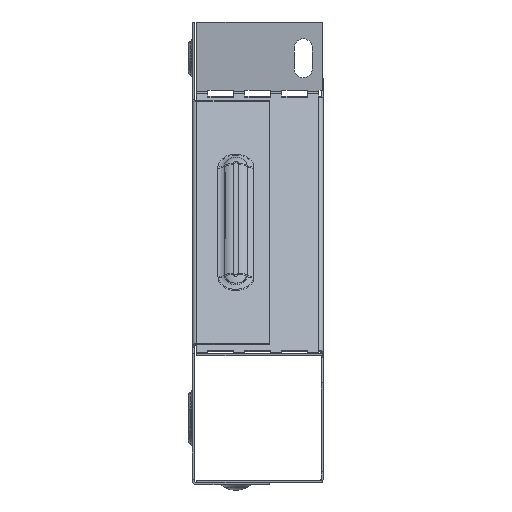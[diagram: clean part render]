
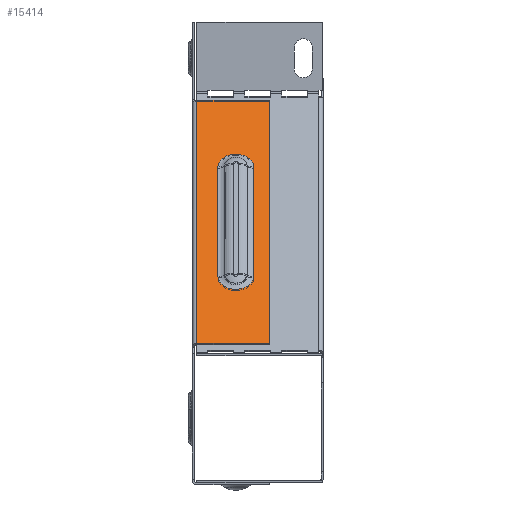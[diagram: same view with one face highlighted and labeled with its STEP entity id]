
A CAD part, left-side view. The second image highlights one B-rep face of the part: STEP entity #15414.
In plain terms, the highlighted planar face has unit normal (-0.707, 0, 0.707).
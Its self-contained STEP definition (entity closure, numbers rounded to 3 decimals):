
#189 = DIRECTION ( 'NONE',  ( 0.707, 0., -0.707 ) ) ;
#611 = ORIENTED_EDGE ( 'NONE', *, *, #15184, .T. ) ;
#863 = DIRECTION ( 'NONE',  ( 0.707, 0., -0.707 ) ) ;
#1020 = CARTESIAN_POINT ( 'NONE',  ( -88.438, 20.8, 88.438 ) ) ;
#1037 = FACE_OUTER_BOUND ( 'NONE', #1502, .T. ) ;
#1202 = VECTOR ( 'NONE', #14240, 1000. ) ;
#1244 = CIRCLE ( 'NONE', #18974, 6.917 ) ;
#1502 = EDGE_LOOP ( 'NONE', ( #6201, #19132, #17939, #13092 ) ) ;
#1658 = DIRECTION ( 'NONE',  ( -0.5, 0.707, -0.5 ) ) ;
#2131 = CARTESIAN_POINT ( 'NONE',  ( -97.152, 26.983, 79.725 ) ) ;
#2783 = CARTESIAN_POINT ( 'NONE',  ( -26.838, 49., 150.038 ) ) ;
#2987 = CARTESIAN_POINT ( 'NONE',  ( -54.725, 26.983, 122.152 ) ) ;
#3697 = DIRECTION ( 'NONE',  ( -0.707, 0., -0.707 ) ) ;
#4425 = DIRECTION ( 'NONE',  ( 0.707, 0., -0.707 ) ) ;
#4472 = VERTEX_POINT ( 'NONE', #12782 ) ;
#4889 = AXIS2_PLACEMENT_3D ( 'NONE', #16972, #863, #3697 ) ;
#5003 = EDGE_CURVE ( 'NONE', #8929, #8615, #18698, .T. ) ;
#5509 = VERTEX_POINT ( 'NONE', #7418 ) ;
#5795 = VECTOR ( 'NONE', #11313, 1000. ) ;
#6201 = ORIENTED_EDGE ( 'NONE', *, *, #6960, .F. ) ;
#6314 = CARTESIAN_POINT ( 'NONE',  ( -54.725, 26.983, 122.152 ) ) ;
#6418 = VERTEX_POINT ( 'NONE', #9533 ) ;
#6908 = DIRECTION ( 'NONE',  ( 0.707, 0., 0.707 ) ) ;
#6960 = EDGE_CURVE ( 'NONE', #6418, #4472, #10183, .T. ) ;
#7173 = EDGE_CURVE ( 'NONE', #12376, #14232, #12942, .T. ) ;
#7263 = VECTOR ( 'NONE', #6908, 1000. ) ;
#7268 = CARTESIAN_POINT ( 'NONE',  ( -54.725, 40.817, 122.152 ) ) ;
#7390 = CARTESIAN_POINT ( 'NONE',  ( -28.96, 20.8, 147.917 ) ) ;
#7407 = CARTESIAN_POINT ( 'NONE',  ( -54.725, 33.9, 122.152 ) ) ;
#7418 = CARTESIAN_POINT ( 'NONE',  ( -97.152, 40.817, 79.725 ) ) ;
#7466 = ORIENTED_EDGE ( 'NONE', *, *, #7797, .T. ) ;
#7749 = CARTESIAN_POINT ( 'NONE',  ( -28.96, 50.8, 147.917 ) ) ;
#7797 = EDGE_CURVE ( 'NONE', #14232, #5509, #1244, .T. ) ;
#8551 = VECTOR ( 'NONE', #11701, 1000. ) ;
#8615 = VERTEX_POINT ( 'NONE', #7390 ) ;
#8813 = EDGE_LOOP ( 'NONE', ( #16424, #611, #16878, #7466 ) ) ;
#8929 = VERTEX_POINT ( 'NONE', #11506 ) ;
#9025 = CARTESIAN_POINT ( 'NONE',  ( -97.152, 33.9, 79.725 ) ) ;
#9533 = CARTESIAN_POINT ( 'NONE',  ( -122.917, 20.8, 53.96 ) ) ;
#10183 = LINE ( 'NONE', #15856, #5795 ) ;
#11152 = CARTESIAN_POINT ( 'NONE',  ( -54.725, 40.817, 122.152 ) ) ;
#11313 = DIRECTION ( 'NONE',  ( 0., 1., 0. ) ) ;
#11392 = LINE ( 'NONE', #1020, #7263 ) ;
#11506 = CARTESIAN_POINT ( 'NONE',  ( -28.96, 49., 147.917 ) ) ;
#11701 = DIRECTION ( 'NONE',  ( -0.707, 0., -0.707 ) ) ;
#12071 = EDGE_CURVE ( 'NONE', #4472, #8929, #16847, .T. ) ;
#12376 = VERTEX_POINT ( 'NONE', #6314 ) ;
#12782 = CARTESIAN_POINT ( 'NONE',  ( -122.917, 49., 53.96 ) ) ;
#12942 = LINE ( 'NONE', #2987, #8551 ) ;
#13092 = ORIENTED_EDGE ( 'NONE', *, *, #12071, .F. ) ;
#13274 = CIRCLE ( 'NONE', #13906, 6.917 ) ;
#13906 = AXIS2_PLACEMENT_3D ( 'NONE', #7407, #4425, #14781 ) ;
#14232 = VERTEX_POINT ( 'NONE', #2131 ) ;
#14240 = DIRECTION ( 'NONE',  ( 0.707, 0., 0.707 ) ) ;
#14280 = VECTOR ( 'NONE', #15973, 1000. ) ;
#14781 = DIRECTION ( 'NONE',  ( -0.5, 0.707, -0.5 ) ) ;
#15184 = EDGE_CURVE ( 'NONE', #19193, #12376, #13274, .T. ) ;
#15389 = FACE_BOUND ( 'NONE', #8813, .T. ) ;
#15414 = ADVANCED_FACE ( 'NONE', ( #15389, #1037 ), #15671, .F. ) ;
#15671 = PLANE ( 'NONE',  #4889 ) ;
#15856 = CARTESIAN_POINT ( 'NONE',  ( -122.917, 51.899, 53.96 ) ) ;
#15973 = DIRECTION ( 'NONE',  ( 0.707, 0., 0.707 ) ) ;
#16424 = ORIENTED_EDGE ( 'NONE', *, *, #18370, .T. ) ;
#16523 = EDGE_CURVE ( 'NONE', #6418, #8615, #11392, .T. ) ;
#16572 = DIRECTION ( 'NONE',  ( 0., -1., 0. ) ) ;
#16847 = LINE ( 'NONE', #2783, #14280 ) ;
#16878 = ORIENTED_EDGE ( 'NONE', *, *, #7173, .T. ) ;
#16972 = CARTESIAN_POINT ( 'NONE',  ( -88.438, 50.8, 88.438 ) ) ;
#17939 = ORIENTED_EDGE ( 'NONE', *, *, #5003, .F. ) ;
#18370 = EDGE_CURVE ( 'NONE', #5509, #19193, #19046, .T. ) ;
#18476 = VECTOR ( 'NONE', #16572, 1000. ) ;
#18698 = LINE ( 'NONE', #7749, #18476 ) ;
#18974 = AXIS2_PLACEMENT_3D ( 'NONE', #9025, #189, #1658 ) ;
#19046 = LINE ( 'NONE', #11152, #1202 ) ;
#19132 = ORIENTED_EDGE ( 'NONE', *, *, #16523, .T. ) ;
#19193 = VERTEX_POINT ( 'NONE', #7268 ) ;
